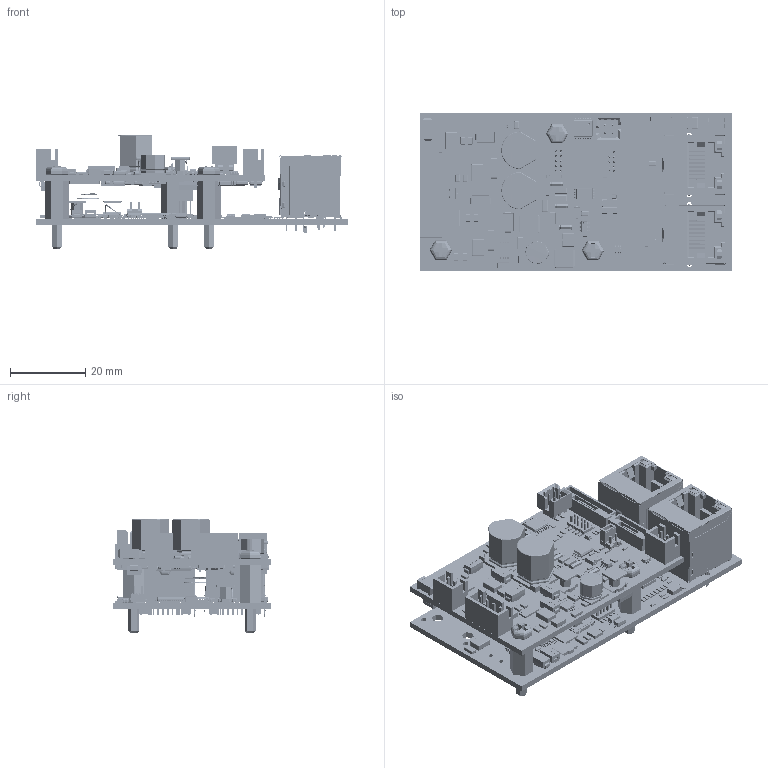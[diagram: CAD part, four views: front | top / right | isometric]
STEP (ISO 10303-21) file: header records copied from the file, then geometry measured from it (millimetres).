
FILE_DESCRIPTION((''),'2;1');
FILE_NAME('IMD04-00_ETH01-00_ASM','2019-08-27T15:11:26',('Matteo Maccalli'),(''),'CREO PARAMETRIC BY PTC INC, 2017260','CREO PARAMETRIC BY PTC INC, 2017260','');
FILE_SCHEMA(('AUTOMOTIVE_DESIGN { 1 0 10303 214 1 1 1 1 }'));
Products named in the file (640): BOARD; MANIFOLD_SOLID_BREP_2716; MANIFOLD_SOLID_BREP_4201; MANIFOLD_SOLID_BREP_5640; MANIFOLD_SOLID_BREP_5706; MANIFOLD_SOLID_BREP_5780; MANIFOLD_SOLID_BREP_6294; MANIFOLD_SOLID_BREP_6808; MANIFOLD_SOLID_BREP_7592; MANIFOLD_SOLID_BREP_11341; USER_LIBRARY-LQH55D_SERIES_ASM; L202_ASM; USER_LIBRARY-RES0603-1; R224_ASM; R223_ASM; BODY_MK06A; LEAD_MK06A; DDC0006A_ASM; Q200_ASM; SW3DPS-0603_SMD_CAPACITOR; C217_ASM; C216_ASM; C215_ASM; USER_LIBRARY-LQFP64_GRID_-35052; USER_LIBRARY-LQFP64_GRID_-36747; LQFP64_GRID_0_5_ASM; IC401_ASM; MANIFOLD_SOLID_BREP_42049; MANIFOLD_SOLID_BREP_43241; MANIFOLD_SOLID_BREP_44479; MANIFOLD_SOLID_BREP_45648; MANIFOLD_SOLID_BREP_46817; MANIFOLD_SOLID_BREP_48032; MANIFOLD_SOLID_BREP_49086; MANIFOLD_SOLID_BREP_50140; USER_LIBRARY-TSSOP14-1_ASM; IC600_ASM; R201_ASM; JUMPER_AKSO-200_G; JUMP400_ASM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
Assembly tree (1127 placements, depth 7):
  IMD04-00_ETH01-00_ASM
    IMD04-00_ASM
      PCB_ASM
        BOARD
        L202_ASM
          USER_LIBRARY-LQH55D_SERIES_ASM
            MANIFOLD_SOLID_BREP_2716
            MANIFOLD_SOLID_BREP_4201
            MANIFOLD_SOLID_BREP_5640
            MANIFOLD_SOLID_BREP_5706
            MANIFOLD_SOLID_BREP_5780
            MANIFOLD_SOLID_BREP_6294
            MANIFOLD_SOLID_BREP_6808
            MANIFOLD_SOLID_BREP_7592
            MANIFOLD_SOLID_BREP_11341
        R224_ASM
          USER_LIBRARY-RES0603-1
        R223_ASM
          USER_LIBRARY-RES0603-1
        Q200_ASM
          DDC0006A_ASM
            BODY_MK06A
            LEAD_MK06A  x6
        C217_ASM
          SW3DPS-0603_SMD_CAPACITOR
        C216_ASM
          SW3DPS-0603_SMD_CAPACITOR
        C215_ASM
          SW3DPS-0603_SMD_CAPACITOR
        IC401_ASM
          LQFP64_GRID_0_5_ASM
            USER_LIBRARY-LQFP64_GRID_-35052
            USER_LIBRARY-LQFP64_GRID_-36747  x64
        IC600_ASM
          USER_LIBRARY-TSSOP14-1_ASM
            MANIFOLD_SOLID_BREP_42049
            MANIFOLD_SOLID_BREP_43241
            MANIFOLD_SOLID_BREP_44479
            MANIFOLD_SOLID_BREP_45648
            MANIFOLD_SOLID_BREP_46817
            MANIFOLD_SOLID_BREP_48032
            MANIFOLD_SOLID_BREP_49086
            MANIFOLD_SOLID_BREP_50140
        R201_ASM
          USER_LIBRARY-RES0603-1
        JUMP400_ASM
          JUMPER_AKSO-200_G
        X4_ASM
          878325122
        JMP400_ASM
          57202F5102ALF
        C426_ASM
          SW3DPS-0603_SMD_CAPACITOR
        C425_ASM
          SW3DPS-0603_SMD_CAPACITOR
        C424_ASM
          SW3DPS-0603_SMD_CAPACITOR
        C201_ASM
          SW3DPS-0603_SMD_CAPACITOR
        C202_ASM
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Bounding box: 83 x 42 x 30.12 mm (x, y, z)
Topology: 679 solids, 1727 shells, 41806 faces, 107389 edges, 65485 vertices
Faces by surface type: plane 22517, cylinder 8004, extrusion 7205, sphere 2325, torus 1431, bspline 246, cone 74, revolution 4
Full cylindrical faces by diameter (mm): 0.03 x2, 0.04 x7, 0.05 x17, 0.064 x14, 0.1 x10, 0.2 x120, 0.203 x1, 0.25 x20, 0.26 x2, 0.3 x81, 0.336 x4, 0.4 x18, 0.457 x10, 0.495 x8, 0.5 x30, 0.6 x207, 0.75 x4, 0.8 x8
Entity records: 593982 total; most frequent: CARTESIAN_POINT 186307, DIRECTION 53353, ORIENTED_EDGE 52313, PRESENTATION_STYLE_ASSIGNMENT 31576, EDGE_CURVE 29922, STYLED_ITEM 27950, CURVE_STYLE 26275, VECTOR 21899
